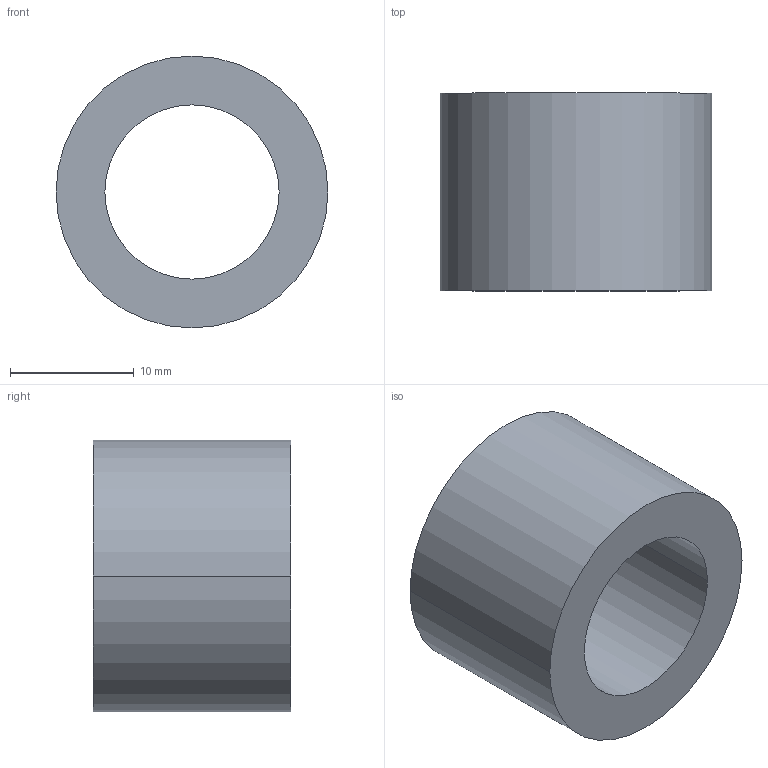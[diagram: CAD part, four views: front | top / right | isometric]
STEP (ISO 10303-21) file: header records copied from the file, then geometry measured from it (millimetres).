
FILE_DESCRIPTION (( 'STEP AP203' ), '1' );
FILE_NAME ('30800.WPP22F14.1.step', '2019-01-23T22:43:01', ( '' ), ( '' ), 'SwSTEP 2.0', 'SolidWorks 2017', '' );
FILE_SCHEMA (( 'CONFIG_CONTROL_DESIGN' ));
Length unit declared in the file: millimetre
Products named in the file (1): 30800.WPP22F14.1
Bounding box: 22 x 16 x 22 mm (x, y, z)
Volume: 3543.4 mm3; surface area: 2226.3 mm2
Topology: 1 solids, 1 shells, 8 faces, 16 edges, 10 vertices
Faces by surface type: cylinder 4, torus 2, plane 2
Entity records: 297 total; most frequent: DIRECTION 46, CARTESIAN_POINT 35, ORIENTED_EDGE 32, AXIS2_PLACEMENT_3D 21, EDGE_CURVE 16, CIRCLE 12, EDGE_LOOP 10, VERTEX_POINT 10
